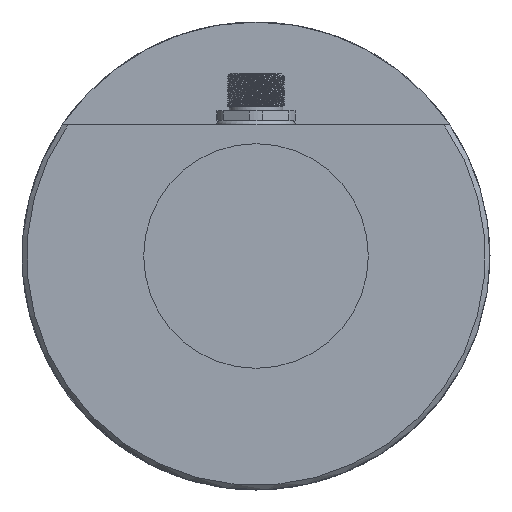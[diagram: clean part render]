
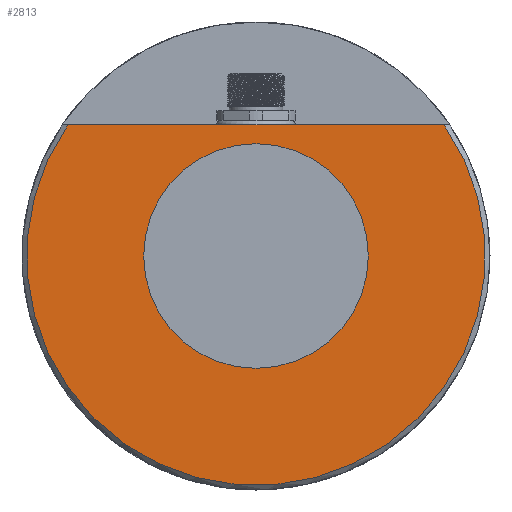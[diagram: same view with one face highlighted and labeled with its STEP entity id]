
A CAD part, left-side view. The second image highlights one B-rep face of the part: STEP entity #2813.
In plain terms, the highlighted planar face has unit normal (-1, 0, 0).
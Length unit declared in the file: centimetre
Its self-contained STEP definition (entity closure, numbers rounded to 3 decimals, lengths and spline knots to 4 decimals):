
#810=CIRCLE('',#2981,2.4);
#812=CIRCLE('',#2987,4.9);
#903=VERTEX_POINT('',#3678);
#905=VERTEX_POINT('',#3688);
#906=VERTEX_POINT('',#3692);
#1115=VECTOR('',#3238,1.);
#1231=LINE('',#3709,#1115);
#1362=EDGE_CURVE('',#903,#903,#810,.T.);
#1366=EDGE_CURVE('',#906,#905,#812,.T.);
#1372=EDGE_CURVE('',#906,#905,#1231,.T.);
#1740=ORIENTED_EDGE('',*,*,#1362,.T.);
#1741=ORIENTED_EDGE('',*,*,#1366,.F.);
#1742=ORIENTED_EDGE('',*,*,#1372,.T.);
#2398=EDGE_LOOP('',(#1740));
#2399=EDGE_LOOP('',(#1741,#1742));
#2610=FACE_BOUND('',#2398,.T.);
#2611=FACE_BOUND('',#2399,.T.);
#2813=ADVANCED_FACE('',(#2610,#2611),#16142,.T.);
#2981=AXIS2_PLACEMENT_3D('',#3677,#3209,#3210);
#2987=AXIS2_PLACEMENT_3D('',#3693,#3219,#3220);
#2998=AXIS2_PLACEMENT_3D('',#3710,#3239,$);
#3209=DIRECTION('',(1.,0.,0.));
#3210=DIRECTION('',(0.,0.,2.4));
#3219=DIRECTION('',(1.,0.,0.));
#3220=DIRECTION('',(0.,0.,-4.9));
#3238=DIRECTION('',(0.,1.,0.));
#3239=DIRECTION('',(-1.,0.,0.));
#3677=CARTESIAN_POINT('',(0.,0.,0.));
#3678=CARTESIAN_POINT('',(0.,0.,2.4));
#3688=CARTESIAN_POINT('',(0.,4.0212,2.8));
#3692=CARTESIAN_POINT('',(0.,-4.0212,2.8));
#3693=CARTESIAN_POINT('',(0.,0.,0.));
#3709=CARTESIAN_POINT('',(0.,2.775,2.8));
#3710=CARTESIAN_POINT('',(0.,0.,-2.5));
#16142=PLANE('',#2998);
